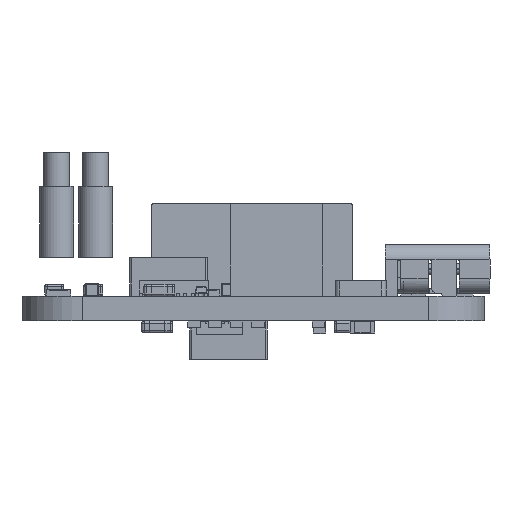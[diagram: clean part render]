
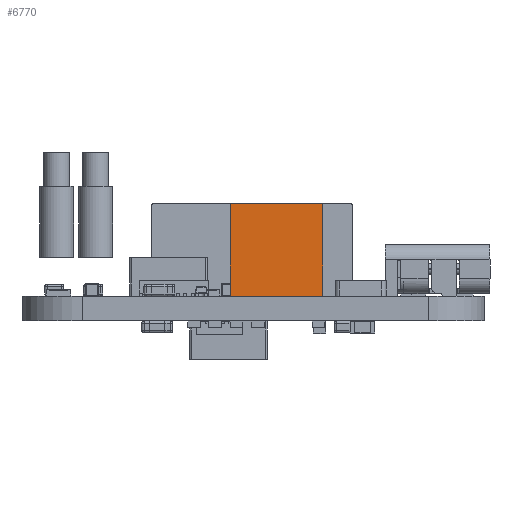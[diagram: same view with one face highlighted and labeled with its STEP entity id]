
A CAD part, left-side view. The second image highlights one B-rep face of the part: STEP entity #6770.
In plain terms, the highlighted planar face has unit normal (-1, 0, 0) as drawn and (0, -1, 0) by its records, which use the part's own axes.
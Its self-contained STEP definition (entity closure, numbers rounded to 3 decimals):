
#5517=PLANE('',#27283);
#6770=ADVANCED_FACE('',(#8227),#5517,.F.);
#8227=FACE_OUTER_BOUND('',#9594,.T.);
#9594=EDGE_LOOP('',(#16262,#16263,#16264,#16265));
#16262=ORIENTED_EDGE('',*,*,#21449,.T.);
#16263=ORIENTED_EDGE('',*,*,#21402,.F.);
#16264=ORIENTED_EDGE('',*,*,#21422,.F.);
#16265=ORIENTED_EDGE('',*,*,#21398,.T.);
#18456=VERTEX_POINT('',#51333);
#18457=VERTEX_POINT('',#51335);
#18460=VERTEX_POINT('',#51342);
#18461=VERTEX_POINT('',#51344);
#21398=EDGE_CURVE('',#18457,#18456,#23500,.T.);
#21402=EDGE_CURVE('',#18460,#18461,#23504,.T.);
#21422=EDGE_CURVE('',#18457,#18460,#23524,.T.);
#21449=EDGE_CURVE('',#18456,#18461,#23551,.T.);
#23500=LINE('',#51334,#25582);
#23504=LINE('',#51343,#25586);
#23524=LINE('',#51381,#25606);
#23551=LINE('',#51431,#25633);
#25582=VECTOR('',#32460,1.);
#25586=VECTOR('',#32466,1.);
#25606=VECTOR('',#32492,1.);
#25633=VECTOR('',#32525,1.);
#27283=AXIS2_PLACEMENT_3D('',#51432,#32526,#32527);
#32460=DIRECTION('',(0.,0.,-1.));
#32466=DIRECTION('',(0.,0.,-1.));
#32492=DIRECTION('',(1.,0.,0.));
#32525=DIRECTION('',(1.,0.,0.));
#32526=DIRECTION('',(0.,1.,0.));
#32527=DIRECTION('',(0.,0.,1.));
#51333=CARTESIAN_POINT('',(-3.,-2.5,0.));
#51334=CARTESIAN_POINT('',(-3.,-2.5,6.));
#51335=CARTESIAN_POINT('',(-3.,-2.5,6.));
#51342=CARTESIAN_POINT('',(3.,-2.5,6.));
#51343=CARTESIAN_POINT('',(3.,-2.5,6.));
#51344=CARTESIAN_POINT('',(3.,-2.5,0.));
#51381=CARTESIAN_POINT('',(-3.,-2.5,6.));
#51431=CARTESIAN_POINT('',(-3.,-2.5,0.));
#51432=CARTESIAN_POINT('',(-3.,-2.5,6.));
